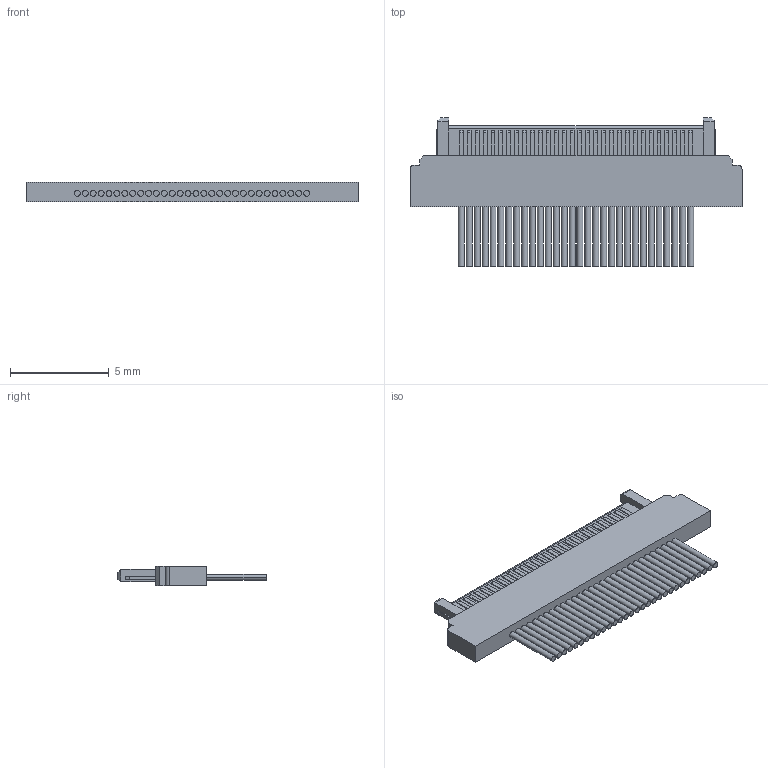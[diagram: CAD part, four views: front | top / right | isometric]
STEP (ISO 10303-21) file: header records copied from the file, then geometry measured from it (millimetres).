
FILE_DESCRIPTION(('Creo Elements/Direct Modeling STEP Export'),'2;1');
FILE_NAME('USL20-30S_ST.stp','2017-08-07T10:19:25',(''),(''),'Creo Elements/Direct Modeling STEP processor for AP214 (Solid Model)','Creo Elements/Direct Modeling 19.0F 14-Feb-2017 (C) Parametric Technology GmbH','');
FILE_SCHEMA(('AUTOMOTIVE_DESIGN { 1 0 10303 214 1 1 1 1 }'));
Length unit declared in the file: millimetre
Products named in the file (2): USL20-30S
Assembly tree (1 placements, depth 2):
  USL20-30S
    USL20-30S
Bounding box: 16.8 x 7.5 x 1 mm (x, y, z)
Volume: 56.8 mm3; surface area: 258.2 mm2
Topology: 1 solids, 1 shells, 251 faces, 654 edges, 436 vertices
Faces by surface type: plane 159, cylinder 92
Entity records: 7192 total; most frequent: ORIENTED_EDGE 1308, CARTESIAN_POINT 1224, DIRECTION 1136, EDGE_CURVE 654, VECTOR 440, LINE 440, VERTEX_POINT 436, AXIS2_PLACEMENT_3D 348
